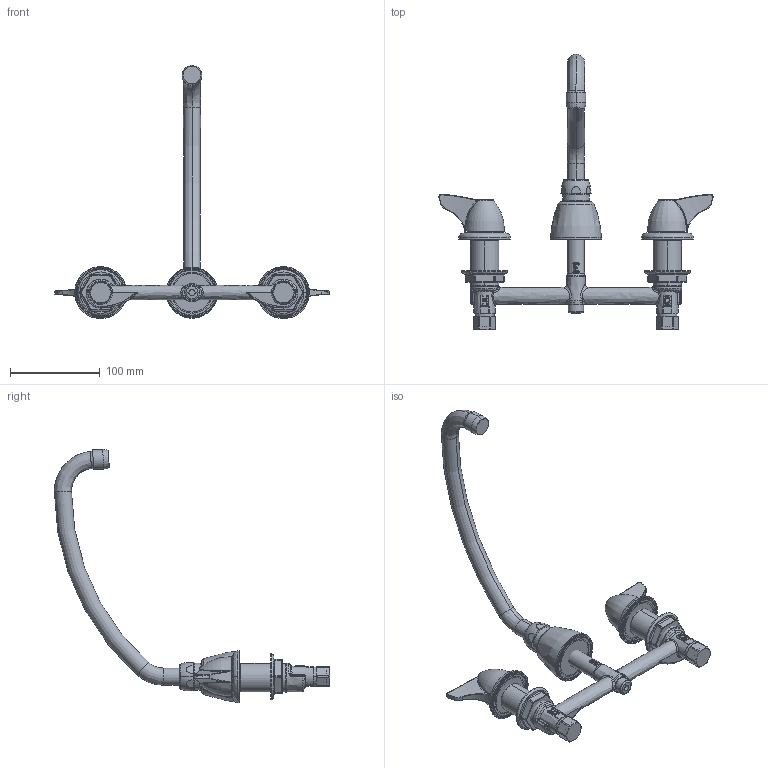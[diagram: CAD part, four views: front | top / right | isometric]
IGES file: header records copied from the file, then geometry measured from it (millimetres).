
Start section:  PTC IGES file: 201-AE35-1000ABCP_REV061311.igs
Global section: file name: 201-AE35-1000ABCP_REV061311.igs; native system: Pro/ENGINEER by Parametric Technology Corporation; preprocessor: 2010230; author: sdmitruk; organization: Unknown; date: 20110613.085624; units: inch
Bounding box: 304.8 x 306.02 x 281.38 mm (x, y, z)
Surface area: 122932.2 mm2 (no closed solid volume)
Topology: 0 solids, 0 shells, 722 faces, 4930 edges, 6534 vertices
Faces by surface type: revolution 365, bspline 357
